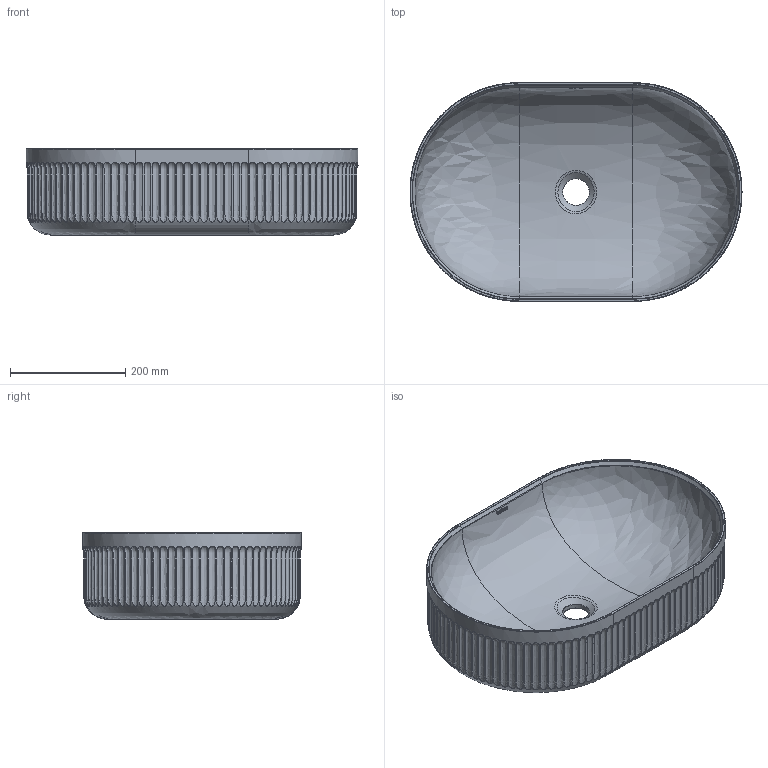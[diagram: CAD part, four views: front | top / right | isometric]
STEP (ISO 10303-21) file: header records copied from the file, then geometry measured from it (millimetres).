
FILE_DESCRIPTION(/* description */ (''),/* implementation_level */ '2;1');
FILE_NAME(/* name */ '00604_~1',/* time_stamp */ '2023-11-13T16:30:57+01:00',/* author */ (''),/* organization */ (''),/* preprocessor_version */ 'ST-DEVELOPER v16.5',/* originating_system */ '',/* authorisation */ '');
FILE_SCHEMA (('CONFIG_CONTROL_DESIGN'));
Length unit declared in the file: millimetre
Products named in the file (1): Document
Bounding box: 576.89 x 380 x 150 mm (x, y, z)
Volume: 7110003.4 mm3; surface area: 759943.3 mm2
Topology: 8 solids, 8 shells, 496 faces, 1376 edges, 896 vertices
Faces by surface type: bspline 311, cylinder 129, plane 56
Full cylindrical faces by diameter (mm): 46 x1
Entity records: 79814 total; most frequent: CARTESIAN_POINT 71666, ORIENTED_EDGE 2752, EDGE_CURVE 1376, VERTEX_POINT 896, B_SPLINE_CURVE_WITH_KNOTS 867, EDGE_LOOP 504, ADVANCED_FACE 496, FACE_OUTER_BOUND 496
